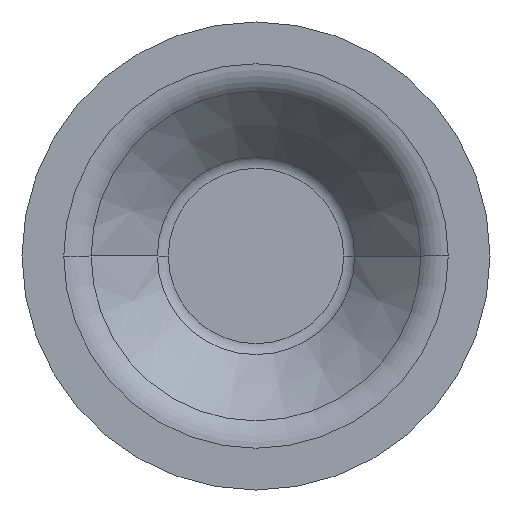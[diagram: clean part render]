
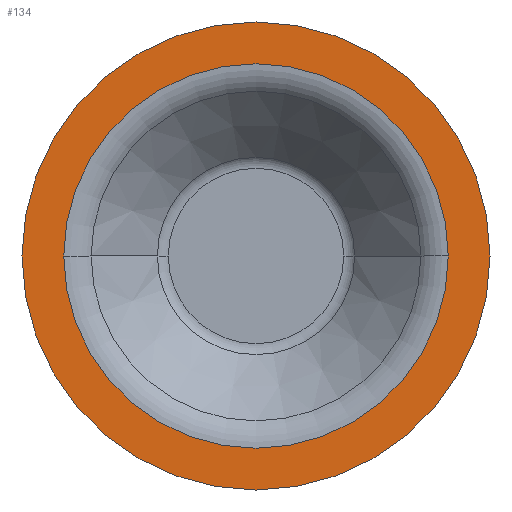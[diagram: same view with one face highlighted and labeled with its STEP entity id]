
A CAD part, front view. The second image highlights one B-rep face of the part: STEP entity #134.
In plain terms, the highlighted planar face has unit normal (0, -1, 0).
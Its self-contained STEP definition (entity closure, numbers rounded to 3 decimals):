
#3 = PLANE ( 'NONE',  #1095 ) ;
#106 = DIRECTION ( 'NONE',  ( 0., -1., 0. ) ) ;
#114 = CARTESIAN_POINT ( 'NONE',  ( -25.88, -15., 0. ) ) ;
#134 = ADVANCED_FACE ( 'NONE', ( #1271, #634 ), #3, .T. ) ;
#237 = CARTESIAN_POINT ( 'NONE',  ( 0., -15., 0. ) ) ;
#240 = DIRECTION ( 'NONE',  ( 1., 0., 0. ) ) ;
#322 = ORIENTED_EDGE ( 'NONE', *, *, #1444, .F. ) ;
#357 = CARTESIAN_POINT ( 'NONE',  ( 0., -15., 0. ) ) ;
#371 = DIRECTION ( 'NONE',  ( 0., -1., 0. ) ) ;
#394 = DIRECTION ( 'NONE',  ( 0., -1., 0. ) ) ;
#436 = AXIS2_PLACEMENT_3D ( 'NONE', #237, #1240, #849 ) ;
#450 = DIRECTION ( 'NONE',  ( 0., -1., 0. ) ) ;
#465 = DIRECTION ( 'NONE',  ( -1., 0., 0. ) ) ;
#487 = CARTESIAN_POINT ( 'NONE',  ( -31.5, -15., 0. ) ) ;
#514 = AXIS2_PLACEMENT_3D ( 'NONE', #887, #394, #1411 ) ;
#634 = FACE_OUTER_BOUND ( 'NONE', #1373, .T. ) ;
#718 = AXIS2_PLACEMENT_3D ( 'NONE', #357, #106, #240 ) ;
#802 = VERTEX_POINT ( 'NONE', #1194 ) ;
#830 = CIRCLE ( 'NONE', #514, 31.5 ) ;
#849 = DIRECTION ( 'NONE',  ( -1., 0., 0. ) ) ;
#850 = VERTEX_POINT ( 'NONE', #114 ) ;
#887 = CARTESIAN_POINT ( 'NONE',  ( 0., -15., 0. ) ) ;
#933 = VERTEX_POINT ( 'NONE', #1265 ) ;
#942 = EDGE_LOOP ( 'NONE', ( #1509, #322 ) ) ;
#986 = CIRCLE ( 'NONE', #1201, 25.88 ) ;
#993 = CARTESIAN_POINT ( 'NONE',  ( 31.5, -15., 0. ) ) ;
#1014 = CIRCLE ( 'NONE', #436, 25.88 ) ;
#1073 = ORIENTED_EDGE ( 'NONE', *, *, #1129, .T. ) ;
#1095 = AXIS2_PLACEMENT_3D ( 'NONE', #993, #371, #1527 ) ;
#1099 = CARTESIAN_POINT ( 'NONE',  ( 0., -15., 0. ) ) ;
#1129 = EDGE_CURVE ( 'NONE', #802, #1547, #1361, .T. ) ;
#1162 = ORIENTED_EDGE ( 'NONE', *, *, #1244, .T. ) ;
#1194 = CARTESIAN_POINT ( 'NONE',  ( 31.5, -15., 0. ) ) ;
#1201 = AXIS2_PLACEMENT_3D ( 'NONE', #1099, #450, #465 ) ;
#1240 = DIRECTION ( 'NONE',  ( 0., -1., 0. ) ) ;
#1244 = EDGE_CURVE ( 'NONE', #1547, #802, #830, .T. ) ;
#1265 = CARTESIAN_POINT ( 'NONE',  ( 25.88, -15., 0. ) ) ;
#1271 = FACE_BOUND ( 'NONE', #942, .T. ) ;
#1361 = CIRCLE ( 'NONE', #718, 31.5 ) ;
#1373 = EDGE_LOOP ( 'NONE', ( #1073, #1162 ) ) ;
#1411 = DIRECTION ( 'NONE',  ( 1., 0., 0. ) ) ;
#1444 = EDGE_CURVE ( 'NONE', #933, #850, #986, .T. ) ;
#1509 = ORIENTED_EDGE ( 'NONE', *, *, #1561, .F. ) ;
#1527 = DIRECTION ( 'NONE',  ( 1., 0., 0. ) ) ;
#1547 = VERTEX_POINT ( 'NONE', #487 ) ;
#1561 = EDGE_CURVE ( 'NONE', #850, #933, #1014, .T. ) ;
